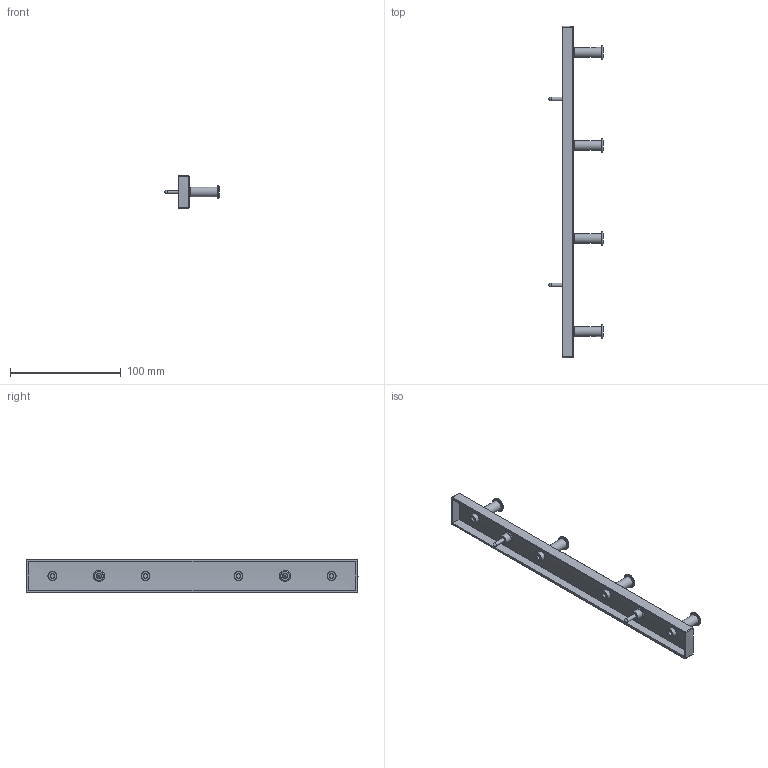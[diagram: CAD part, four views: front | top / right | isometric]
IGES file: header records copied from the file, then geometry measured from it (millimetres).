
Start section: C
Global section: file name: 8177-300.igs; native system: By Siemens PLM Incorporated; preprocessor: XPlus GENERIC/IGES 16.0.42; author: Author; organization: Title; date: 20231119.113458; units: millimetre
Bounding box: 49.58 x 299.65 x 30 mm (x, y, z)
Surface area: 36039.1 mm2 (no closed solid volume)
Topology: 0 solids, 0 shells, 102 faces, 528 edges, 520 vertices
Faces by surface type: bspline 102
